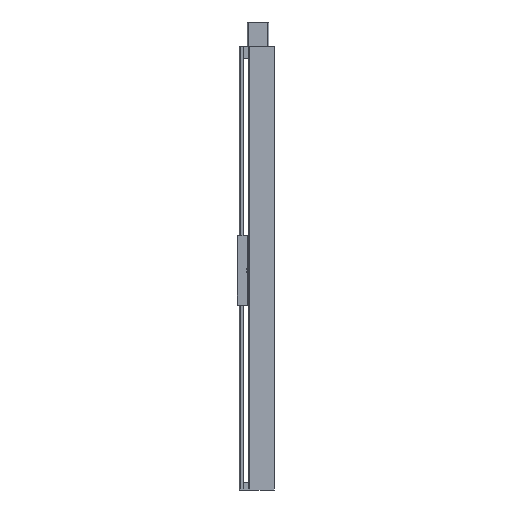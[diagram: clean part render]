
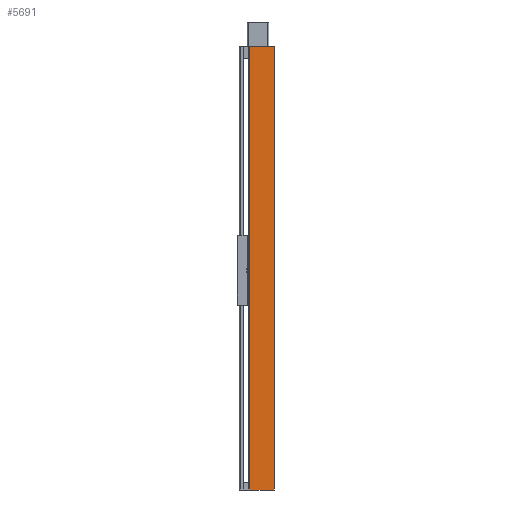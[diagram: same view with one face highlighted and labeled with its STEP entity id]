
A CAD part, left-side view. The second image highlights one B-rep face of the part: STEP entity #5691.
In plain terms, the highlighted planar face has unit normal (-1, 0, 0).
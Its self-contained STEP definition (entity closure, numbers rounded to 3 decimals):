
#1937=CARTESIAN_POINT('',(-68.,65.5,1145.0));
#1938=VERTEX_POINT('',#1937);
#1946=CARTESIAN_POINT('',(-68.0,0.5,1145.0));
#1947=VERTEX_POINT('',#1946);
#1948=CARTESIAN_POINT('',(-68.0,0.5,1145.0));
#1949=DIRECTION('',(0.0,1.0,0.0));
#1950=VECTOR('',#1949,65.0);
#1951=LINE('',#1948,#1950);
#1952=EDGE_CURVE('',#1947,#1938,#1951,.T.);
#4946=CARTESIAN_POINT('',(-68.0,0.5,-20.0));
#4947=VERTEX_POINT('',#4946);
#4956=CARTESIAN_POINT('',(-68.,65.5,-20.0));
#4957=VERTEX_POINT('',#4956);
#4958=CARTESIAN_POINT('',(-68.,65.5,-20.0));
#4959=DIRECTION('',(0.0,-1.0,0.0));
#4960=VECTOR('',#4959,65.0);
#4961=LINE('',#4958,#4960);
#4962=EDGE_CURVE('',#4957,#4947,#4961,.T.);
#5640=CARTESIAN_POINT('',(-68.0,0.5,-20.0));
#5641=DIRECTION('',(0.0,0.0,1.0));
#5642=VECTOR('',#5641,1165.0);
#5643=LINE('',#5640,#5642);
#5644=EDGE_CURVE('',#4947,#1947,#5643,.T.);
#5675=CARTESIAN_POINT('',(-68.0,0.5,0.0));
#5676=DIRECTION('',(-1.0,0.0,0.0));
#5677=DIRECTION('',(0.0,0.0,1.0));
#5678=AXIS2_PLACEMENT_3D('',#5675,#5676,#5677);
#5679=PLANE('',#5678);
#5680=CARTESIAN_POINT('',(-68.,65.5,-20.0));
#5681=DIRECTION('',(0.0,0.0,1.0));
#5682=VECTOR('',#5681,1165.0);
#5683=LINE('',#5680,#5682);
#5684=EDGE_CURVE('',#4957,#1938,#5683,.T.);
#5685=ORIENTED_EDGE('',*,*,#5684,.F.);
#5686=ORIENTED_EDGE('',*,*,#4962,.T.);
#5687=ORIENTED_EDGE('',*,*,#5644,.T.);
#5688=ORIENTED_EDGE('',*,*,#1952,.T.);
#5689=EDGE_LOOP('',(#5685,#5686,#5687,#5688));
#5690=FACE_OUTER_BOUND('',#5689,.T.);
#5691=ADVANCED_FACE('',(#5690),#5679,.T.);
